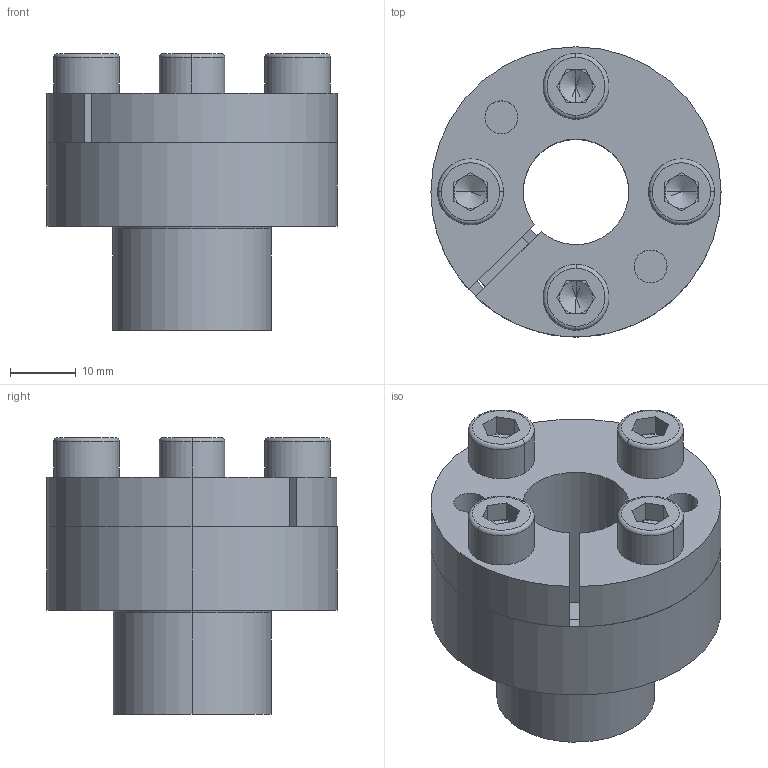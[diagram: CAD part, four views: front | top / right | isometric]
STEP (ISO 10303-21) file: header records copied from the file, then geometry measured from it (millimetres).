
FILE_DESCRIPTION (( 'STEP AP214' ), '1' );
FILE_NAME ('CONEX-B-16x24.step', '2013-04-04T12:41:19', ( 'Pc' ), ( '' ), 'SwSTEP 2.0', 'SolidWorks 2013', '' );
FILE_SCHEMA (( 'AUTOMOTIVE_DESIGN' ));
Length unit declared in the file: millimetre
Products named in the file (1): CONEX-B-16x24
Bounding box: 44 x 44 x 41.98 mm (x, y, z)
Volume: 27829.2 mm3; surface area: 20530.6 mm2
Topology: 7 solids, 7 shells, 168 faces, 390 edges, 236 vertices
Faces by surface type: plane 72, cylinder 52, torus 22, cone 22
Entity records: 6752 total; most frequent: DIRECTION 902, CARTESIAN_POINT 847, ORIENTED_EDGE 764, EDGE_CURVE 382, AXIS2_PLACEMENT_3D 359, VERTEX_POINT 236, EDGE_LOOP 198, CIRCLE 190
